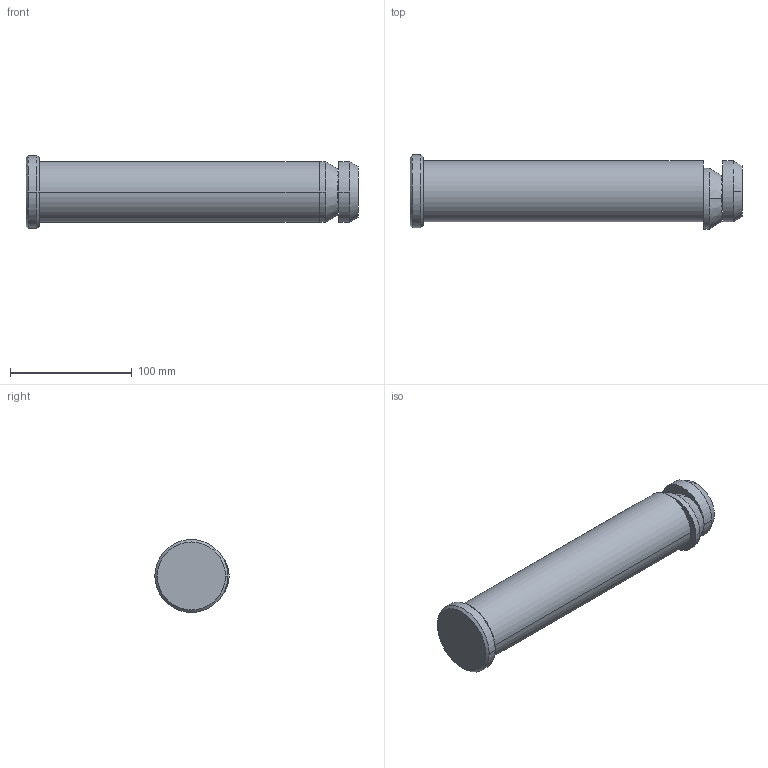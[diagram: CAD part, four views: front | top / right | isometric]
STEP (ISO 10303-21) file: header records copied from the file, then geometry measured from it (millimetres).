
FILE_DESCRIPTION(('CATIA V5 STEP Exchange'),'2;1');
FILE_NAME('C:\Users\Raffaele\Desktop\3D X SITO CF\PERNI -STAFFE SOLLEVAMENTO\395W\395W-050-273.stp','2019-07-05T10:38:00+00:00',('none'),('none'),'CATIA Version 5 Release 20 GA (IN-10)','CATIA V5 STEP AP203','none');
FILE_SCHEMA(('CONFIG_CONTROL_DESIGN'));
Length unit declared in the file: millimetre
Products named in the file (1): 395W-050-273
Bounding box: 273 x 61.01 x 60 mm (x, y, z)
Volume: 528199.1 mm3; surface area: 54720.3 mm2
Topology: 1 solids, 1 shells, 27 faces, 62 edges, 40 vertices
Faces by surface type: cylinder 12, cone 8, plane 7
Entity records: 895 total; most frequent: CARTESIAN_POINT 245, ORIENTED_EDGE 124, DIRECTION 111, AXIS2_PLACEMENT_3D 63, EDGE_CURVE 62, VERTEX_POINT 40, CIRCLE 35, EDGE_LOOP 32
